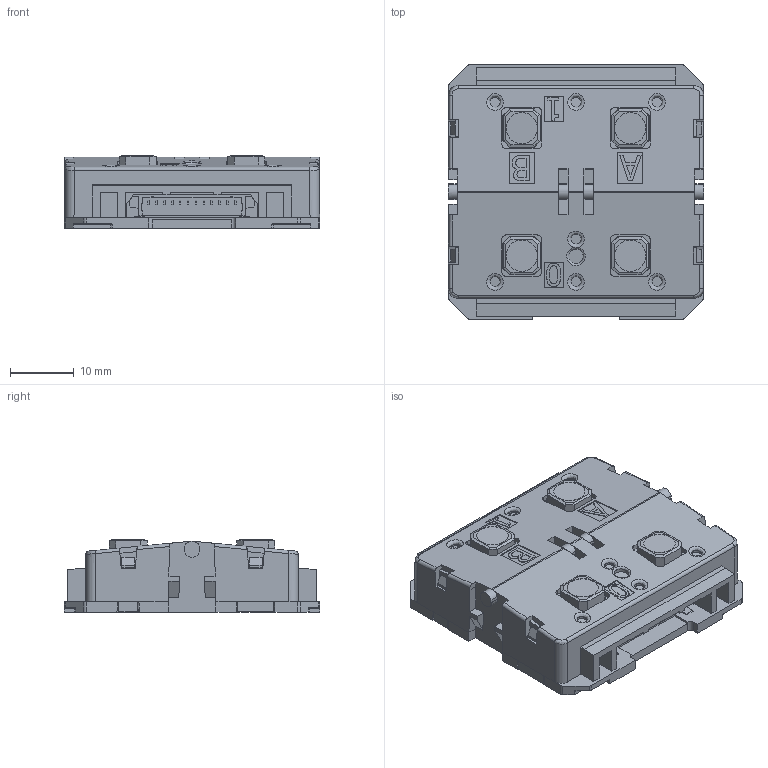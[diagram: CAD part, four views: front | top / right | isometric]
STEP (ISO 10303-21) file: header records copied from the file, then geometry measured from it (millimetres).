
FILE_DESCRIPTION(/* description */ (''),/* implementation_level */ '2;1');
FILE_NAME(/* name */ '24_V_Push_Button_436.stp',/* time_stamp */ '2025-10-02T14:45:41+02:00',/* author */ (''),/* organization */ (''),/* preprocessor_version */ 'ST-DEVELOPER v17.2',/* originating_system */ 'Autodesk Inventor 2019',/* authorisation */ '');
FILE_SCHEMA (('AUTOMOTIVE_DESIGN { 1 0 10303 214 3 1 1 }'));
Length unit declared in the file: millimetre
Products named in the file (1): 24_V_Push_Button_436
Bounding box: 40 x 40 x 11.44 mm (x, y, z)
Volume: 14197.4 mm3; surface area: 5818.2 mm2
Topology: 1 solids, 3 shells, 800 faces, 2165 edges, 1426 vertices
Faces by surface type: plane 632, cylinder 104, bspline 54, cone 4, sphere 4, torus 2
Full cylindrical faces by diameter (mm): 1.3 x2, 1.6 x7, 2.3 x1, 4.9 x4
Entity records: 26872 total; most frequent: CARTESIAN_POINT 5992, ORIENTED_EDGE 4330, DIRECTION 3836, EDGE_CURVE 2165, LINE 1804, VECTOR 1804, VERTEX_POINT 1426, AXIS2_PLACEMENT_3D 1016
